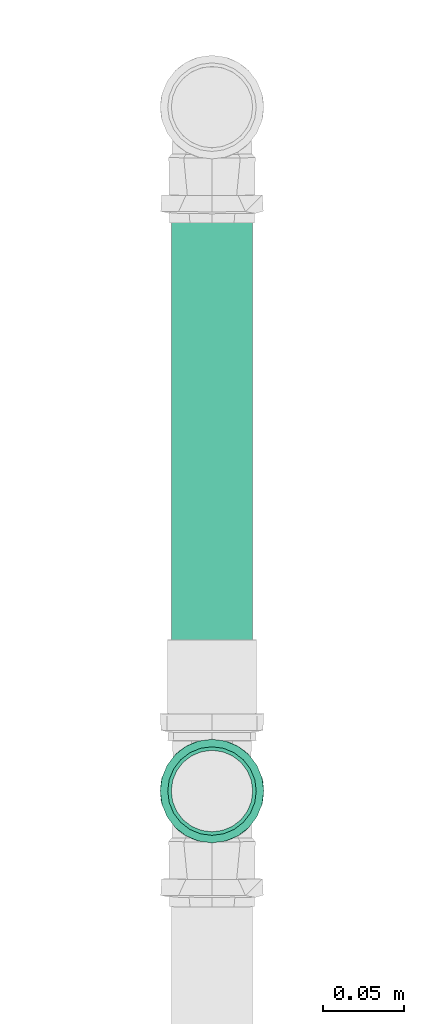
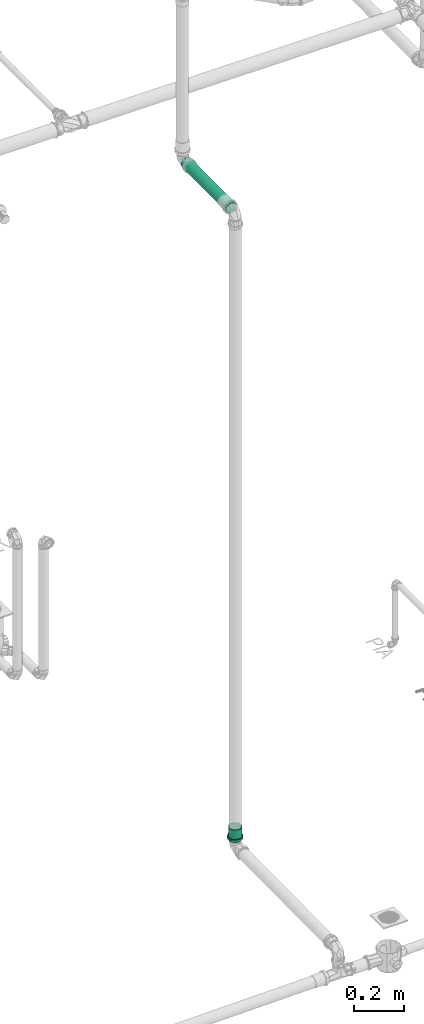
# One storey, part 247 of 589: 1 flow fitting, 1 flow segment.
"""IFC2X3 building model written with IfcOpenShell, lengths in millimetres."""

from ifc_helpers import new_model, entity, si_unit, converted_unit, derived_unit, direction, frame, origin, origin_2d_with_axis, place, context, subcontext, project, spatial, circle, extrude, faceted_brep, source, transform, mapped, material, type_object, type_shapes, element, save


model = new_model("IFC2X3")

# Units and contexts
model_context = context("Model", 3, precision=0.01, world=origin(), true_north=direction((6.123031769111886e-17, 1.0)))
body_context = subcontext(model_context, "Body", "Model", "MODEL_VIEW")
ifc_project = project(units=[si_unit("LENGTHUNIT", "METRE", prefix="MILLI"), si_unit("AREAUNIT", "SQUARE_METRE"), si_unit("VOLUMEUNIT", "CUBIC_METRE"), converted_unit("PLANEANGLEUNIT", "DEGREE", entity("IfcRatioMeasure", 0.017453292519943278), si_unit("PLANEANGLEUNIT", "RADIAN"), dimensions=[0, 0, 0, 0, 0, 0, 0]), si_unit("MASSUNIT", "GRAM", prefix="KILO"), derived_unit("MASSDENSITYUNIT", [(si_unit("MASSUNIT", "GRAM", prefix="KILO"), 1), (si_unit("LENGTHUNIT", "METRE"), -3)]), derived_unit("IONCONCENTRATIONUNIT", [(si_unit("MASSUNIT", "GRAM", prefix="KILO"), 1), (si_unit("LENGTHUNIT", "METRE"), -3)]), derived_unit("MOMENTOFINERTIAUNIT", [(si_unit("LENGTHUNIT", "METRE"), 4)]), si_unit("TIMEUNIT", "SECOND"), si_unit("FREQUENCYUNIT", "HERTZ"), si_unit("THERMODYNAMICTEMPERATUREUNIT", "DEGREE_CELSIUS"), derived_unit("THERMALTRANSMITTANCEUNIT", [(si_unit("MASSUNIT", "GRAM", prefix="KILO"), 1), (si_unit("THERMODYNAMICTEMPERATUREUNIT", "KELVIN"), -1), (si_unit("TIMEUNIT", "SECOND"), -3)]), derived_unit("THERMALCONDUCTANCEUNIT", [(si_unit("MASSUNIT", "GRAM", prefix="KILO"), 1), (si_unit("THERMODYNAMICTEMPERATUREUNIT", "KELVIN"), -1), (si_unit("TIMEUNIT", "SECOND"), -3), (si_unit("LENGTHUNIT", "METRE"), 1)]), derived_unit("VOLUMETRICFLOWRATEUNIT", [(si_unit("LENGTHUNIT", "METRE"), 3), (si_unit("TIMEUNIT", "SECOND"), -1)]), derived_unit("MASSFLOWRATEUNIT", [(si_unit("MASSUNIT", "GRAM", prefix="KILO"), 1), (si_unit("TIMEUNIT", "SECOND"), -1)]), derived_unit("ROTATIONALFREQUENCYUNIT", [(si_unit("TIMEUNIT", "SECOND"), -1)]), si_unit("ELECTRICCURRENTUNIT", "AMPERE"), si_unit("ELECTRICVOLTAGEUNIT", "VOLT"), si_unit("POWERUNIT", "WATT"), si_unit("FORCEUNIT", "NEWTON", prefix="KILO"), si_unit("ILLUMINANCEUNIT", "LUX"), si_unit("LUMINOUSFLUXUNIT", "LUMEN"), si_unit("LUMINOUSINTENSITYUNIT", "CANDELA"), derived_unit("USERDEFINED", [(si_unit("MASSUNIT", "GRAM", prefix="KILO"), -1), (si_unit("LENGTHUNIT", "METRE"), -2), (si_unit("TIMEUNIT", "SECOND"), 3), (si_unit("LUMINOUSFLUXUNIT", "LUMEN"), 1)]), derived_unit("USERDEFINED", [(si_unit("MASSUNIT", "GRAM", prefix="KILO"), 1), (si_unit("TIMEUNIT", "SECOND"), -3), (si_unit("LENGTHUNIT", "METRE"), 3), (si_unit("ELECTRICCURRENTUNIT", "AMPERE"), -2)]), derived_unit("SOUNDPOWERUNIT", [(si_unit("MASSUNIT", "GRAM", prefix="KILO"), 1), (si_unit("TIMEUNIT", "SECOND"), -3), (si_unit("LENGTHUNIT", "METRE"), 2)]), derived_unit("SOUNDPRESSUREUNIT", [(si_unit("MASSUNIT", "GRAM", prefix="KILO"), 1), (si_unit("LENGTHUNIT", "METRE"), -1), (si_unit("TIMEUNIT", "SECOND"), -2)]), derived_unit("LINEARVELOCITYUNIT", [(si_unit("LENGTHUNIT", "METRE"), 1), (si_unit("TIMEUNIT", "SECOND"), -1)]), si_unit("PRESSUREUNIT", "PASCAL"), derived_unit("USERDEFINED", [(si_unit("MASSUNIT", "GRAM", prefix="KILO"), 1), (si_unit("LENGTHUNIT", "METRE"), -2), (si_unit("TIMEUNIT", "SECOND"), -2)]), derived_unit("LINEARFORCEUNIT", [(si_unit("MASSUNIT", "GRAM", prefix="KILO"), 1), (si_unit("TIMEUNIT", "SECOND"), -2)]), derived_unit("PLANARFORCEUNIT", [(si_unit("MASSUNIT", "GRAM", prefix="KILO"), 1), (si_unit("LENGTHUNIT", "METRE"), -1), (si_unit("TIMEUNIT", "SECOND"), -2)]), derived_unit("SPECIFICHEATCAPACITYUNIT", [(si_unit("THERMODYNAMICTEMPERATUREUNIT", "KELVIN"), -1), (si_unit("LENGTHUNIT", "METRE"), 2), (si_unit("TIMEUNIT", "SECOND"), -2)]), derived_unit("HEATINGVALUEUNIT", [(si_unit("LENGTHUNIT", "METRE"), 2), (si_unit("TIMEUNIT", "SECOND"), -2)]), derived_unit("VAPORPERMEABILITYUNIT", [(si_unit("LENGTHUNIT", "METRE"), -1), (si_unit("TIMEUNIT", "SECOND"), 1)]), derived_unit("DYNAMICVISCOSITYUNIT", [(si_unit("MASSUNIT", "GRAM", prefix="KILO"), 1), (si_unit("TIMEUNIT", "SECOND"), -1), (si_unit("LENGTHUNIT", "METRE"), -1)]), derived_unit("THERMALEXPANSIONCOEFFICIENTUNIT", [(si_unit("THERMODYNAMICTEMPERATUREUNIT", "KELVIN"), -1)]), derived_unit("MODULUSOFELASTICITYUNIT", [(si_unit("MASSUNIT", "GRAM", prefix="KILO"), 1), (si_unit("LENGTHUNIT", "METRE"), -1), (si_unit("TIMEUNIT", "SECOND"), -2)]), derived_unit("ISOTHERMALMOISTURECAPACITYUNIT", [(si_unit("LENGTHUNIT", "METRE"), 3), (si_unit("MASSUNIT", "GRAM", prefix="KILO"), -1)]), derived_unit("MOISTUREDIFFUSIVITYUNIT", [(si_unit("TIMEUNIT", "SECOND"), -1), (si_unit("LENGTHUNIT", "METRE"), 2)])], contexts=[model_context])

# Site, building, storey
site_placement = place(None, origin())
site = spatial("IfcSite", under=ifc_project, at=site_placement, Name="Default", CompositionType="ELEMENT")
building_placement = place(site_placement, origin())
building = spatial("IfcBuilding", under=site, at=building_placement, CompositionType="ELEMENT")
storey_placement = place(building_placement, frame((0.0, 0.0, 100.0)))
storey = spatial("IfcBuildingStorey", under=building, at=storey_placement, Name="TÉRREO", CompositionType="ELEMENT", Elevation=100.0)

# Flow segment
pipe_segment_type = type_object("IfcPipeSegmentType", Name="Tipos de tubos:PVC Esgoto Série Normal", PredefinedType="NOTDEFINED")
flow_segment_placement = place(storey_placement, origin())
element("IfcFlowSegment", 1, at=flow_segment_placement, inside=storey, type_object=pipe_segment_type, Name="Tipos de tubos:PVC Esgoto Série Normal", ObjectType="Tipos de tubos:PVC Esgoto Série Normal", context=body_context, shape_type="SweptSolid", body=[
    extrude(circle(Radius=25.0, at=origin_2d_with_axis()), frame((2699.4844981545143, 1548.6687605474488, 3013.5093975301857), z_axis=(0.0, 0.9999500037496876, 0.009999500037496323), x_axis=(1.0, 0.0, 0.0)), (0.0, 0.0, 1.0), 358.13839954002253),
])

# Flow fitting
ifc_material = material(Name="PVC Série Normal")
pipe_fitting_type = type_object("IfcPipeFittingType", Name="PVC Esgoto_Luva Simples para Conexão_Rodrigo MEP:Standard", PredefinedType="NOTDEFINED", material=ifc_material)
shared_shape = source(origin(), body_context, "Body", "Brep", [
    faceted_brep([(16.599999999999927, 15.900000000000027, -27.53960784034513), (16.599999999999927, 22.485995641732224, -22.485995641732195), (16.599999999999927, 13.599999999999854, -23.555890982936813), (16.599999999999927, 7.039878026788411, -26.273182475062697), (16.599999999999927, 8.2304456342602, -30.71644127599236), (16.599999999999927, 19.233304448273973, -19.233304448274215), (16.599999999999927, 27.539607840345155, -15.899999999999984), (16.599999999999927, 23.55589098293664, -13.600000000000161), (16.599999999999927, 26.273182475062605, -7.03987802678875), (16.599999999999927, 30.716441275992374, -8.230445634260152), (16.599999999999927, 27.2, 0.0), (16.599999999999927, 31.8, 0.0), (16.599999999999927, 26.273182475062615, 7.0398780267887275), (16.599999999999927, 30.71644127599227, 8.23044563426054), (16.599999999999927, 23.555890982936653, 13.60000000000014), (16.599999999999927, 27.539607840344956, 15.900000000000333), (16.599999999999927, 19.233304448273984, 19.2333044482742), (16.599999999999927, 22.485995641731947, 22.48599564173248), (16.599999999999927, 13.599999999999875, 23.555890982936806), (16.599999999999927, 15.899999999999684, 27.53960784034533), (16.599999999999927, 7.039878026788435, 26.27318247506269), (16.599999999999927, 8.230445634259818, 30.716441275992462), (16.599999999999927, 0.0, 27.2), (16.599999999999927, 0.0, 31.8), (16.599999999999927, -7.039878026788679, 26.273182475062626), (16.599999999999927, -8.230445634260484, 30.716441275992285), (16.599999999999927, -13.600000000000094, 23.555890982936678), (16.599999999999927, -15.900000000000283, 27.53960784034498), (16.599999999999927, -19.23330444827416, 19.233304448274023), (16.599999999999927, -22.485995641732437, 22.48599564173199), (16.599999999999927, -23.55589098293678, 13.59999999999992), (16.599999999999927, -27.539607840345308, 15.899999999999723), (16.599999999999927, -30.71644127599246, 8.230445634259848), (16.599999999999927, -26.273182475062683, 7.039878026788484), (16.599999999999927, -31.8, 0.0), (16.599999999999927, -27.2, 0.0), (16.599999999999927, -30.71644127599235, -8.23044563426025), (16.599999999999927, -26.273182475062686, -7.03987802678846), (16.599999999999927, -27.53960784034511, -15.90000000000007), (16.599999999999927, -23.55589098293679, -13.599999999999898), (16.599999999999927, -22.485995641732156, -22.485995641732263), (16.599999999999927, -19.233304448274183, -19.233304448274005), (16.599999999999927, -15.899999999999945, -27.53960784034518), (16.599999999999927, -13.600000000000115, -23.555890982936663), (16.599999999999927, -8.230445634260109, -30.716441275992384), (16.599999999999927, -7.039878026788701, -26.273182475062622), (16.599999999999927, 0.0, -31.8), (16.599999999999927, 0.0, -27.2), (6.500000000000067, -10.708108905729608, 29.429219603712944), (6.500000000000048, -24.359073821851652, 20.44200387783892), (6.500000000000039, -27.120498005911, 15.6595386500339), (6.50000000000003, -29.881922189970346, 10.877073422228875), (6.500000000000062, -15.89769721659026, 27.540937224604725), (6.500000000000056, -20.128385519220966, 23.991470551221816), (6.50000000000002, -30.840961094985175, 5.438536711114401), (6.5000000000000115, -31.8, 0.0), (6.50000000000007, -5.518520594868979, 31.317501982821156), (6.500000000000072, 5.526376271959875, 31.316116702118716), (6.50000000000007, 0.00392783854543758, 31.316809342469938), (6.500000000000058, 20.134403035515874, 23.986420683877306), (6.500000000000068, 10.715490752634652, 29.42653259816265), (6.500000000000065, 15.904605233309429, 27.536948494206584), (6.500000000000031, 29.8846497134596, 10.869577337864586), (6.500000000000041, 27.12442527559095, 15.652735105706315), (6.5000000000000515, 24.364200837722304, 20.435892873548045), (6.5000000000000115, 31.8, 0.0), (6.499999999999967, 24.364200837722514, -20.435892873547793), (6.499999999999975, 27.12442527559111, -15.652735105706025), (6.499999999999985, 29.884649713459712, -10.869577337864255), (6.4999999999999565, 15.904605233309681, -27.53694849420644), (6.499999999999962, 20.134403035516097, -23.986420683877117), (6.499999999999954, 10.715490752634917, -29.42653259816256), (6.499999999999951, 5.526376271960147, -31.31611670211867), (6.499999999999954, -5.518520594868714, -31.317501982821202), (6.499999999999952, 0.003927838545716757, -31.316809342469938), (6.499999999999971, -20.128385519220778, -23.99147055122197), (6.499999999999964, -15.897697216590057, -27.54093722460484), (6.499999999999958, -10.70810890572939, -29.42921960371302), (6.499999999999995, -29.881922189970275, -10.877073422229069), (6.499999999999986, -27.12049800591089, -15.659538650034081), (6.499999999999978, -24.359073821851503, -20.442003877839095), (6.500000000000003, -30.840961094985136, -5.438536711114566), (6.499999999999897, -30.696173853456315, -6.259599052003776), (62.0, 13.600000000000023, -23.55589098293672), (62.0, 19.233304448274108, -19.23330444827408), (62.0, 12.499999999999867, -21.650635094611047), (62.0, 6.470476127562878, -24.14814565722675), (62.0, 7.039878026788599, -26.273182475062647), (62.0, 17.677669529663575, -17.677669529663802), (62.0, 23.55589098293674, -13.599999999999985), (62.0, 21.65063509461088, -12.50000000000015), (62.0, 24.148145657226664, -6.470476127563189), (62.0, 26.27318247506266, -7.039878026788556), (62.0, 25.0, 0.0), (62.0, 27.2, 0.0), (62.0, 24.148145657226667, 6.4704761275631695), (62.0, 26.273182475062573, 7.03987802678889), (62.0, 21.650635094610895, 12.500000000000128), (62.0, 23.555890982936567, 13.600000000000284), (62.0, 17.67766952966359, 17.67766952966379), (62.0, 19.233304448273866, 19.233304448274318), (62.0, 12.499999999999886, 21.650635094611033), (62.0, 13.59999999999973, 23.55589098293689), (62.0, 6.4704761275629, 24.14814565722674), (62.0, 7.039878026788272, 26.273182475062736), (62.0, 0.0, 25.0), (62.0, 0.0, 27.2), (62.0, -6.470476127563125, 24.148145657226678), (62.0, -7.039878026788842, 26.273182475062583), (62.0, -12.500000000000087, 21.650635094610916), (62.0, -13.600000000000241, 23.555890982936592), (62.0, -17.677669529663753, 17.677669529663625), (62.0, -19.233304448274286, 19.2333044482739), (62.0, -21.65063509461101, 12.499999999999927), (62.0, -23.555890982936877, 13.599999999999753), (62.0, -26.27318247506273, 7.039878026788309), (62.0, -24.14814565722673, 6.470476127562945), (62.0, -27.2, 0.0), (62.0, -25.0, 0.0), (62.0, -26.27318247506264, -7.0398780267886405), (62.0, -24.148145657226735, -6.470476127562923), (62.0, -23.5558909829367, -13.600000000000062), (62.0, -21.650635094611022, -12.499999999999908), (62.0, -19.233304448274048, -19.233304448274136), (62.0, -17.67766952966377, -17.677669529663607), (62.0, -13.599999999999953, -23.555890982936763), (62.0, -12.500000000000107, -21.650635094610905), (62.0, -7.039878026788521, -26.27318247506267), (62.0, -6.470476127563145, -24.148145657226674), (62.0, 0.0, -27.2), (62.0, 0.0, -25.0), (0.0, 12.499999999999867, -21.650635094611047), (0.0, 19.233304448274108, -19.23330444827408), (0.0, 13.600000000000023, -23.55589098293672), (0.0, 6.470476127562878, -24.14814565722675), (0.0, 17.677669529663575, -17.677669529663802), (0.0, 23.55589098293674, -13.599999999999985), (0.0, 21.65063509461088, -12.50000000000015), (0.0, 24.148145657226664, -6.470476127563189), (0.0, 26.27318247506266, -7.039878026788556), (0.0, 25.0, 0.0), (0.0, 27.2, 0.0), (0.0, 24.148145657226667, 6.4704761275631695), (0.0, 26.273182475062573, 7.03987802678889), (0.0, 21.650635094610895, 12.500000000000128), (0.0, 23.555890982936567, 13.600000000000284), (0.0, 17.67766952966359, 17.67766952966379), (0.0, 19.233304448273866, 19.233304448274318), (0.0, 12.499999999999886, 21.650635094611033), (0.0, 13.59999999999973, 23.55589098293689), (0.0, 6.4704761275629, 24.14814565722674), (0.0, 7.039878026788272, 26.273182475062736), (0.0, 0.0, 25.0), (0.0, 0.0, 27.2), (0.0, -6.470476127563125, 24.148145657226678), (0.0, -7.039878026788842, 26.273182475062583), (0.0, -12.500000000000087, 21.650635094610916), (0.0, -13.600000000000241, 23.555890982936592), (0.0, -17.677669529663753, 17.677669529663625), (0.0, -19.233304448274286, 19.2333044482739), (0.0, -21.65063509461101, 12.499999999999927), (0.0, -23.555890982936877, 13.599999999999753), (0.0, -26.27318247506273, 7.039878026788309), (0.0, -24.14814565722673, 6.470476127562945), (0.0, -27.2, 0.0), (0.0, -25.0, 0.0), (0.0, -26.27318247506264, -7.0398780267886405), (0.0, -24.148145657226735, -6.470476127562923), (0.0, -23.5558909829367, -13.600000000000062), (0.0, -21.650635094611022, -12.499999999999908), (0.0, -19.233304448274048, -19.233304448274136), (0.0, -17.67766952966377, -17.677669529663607), (0.0, -13.599999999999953, -23.555890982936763), (0.0, -12.500000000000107, -21.650635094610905), (0.0, -7.039878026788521, -26.27318247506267), (0.0, -6.470476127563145, -24.148145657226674), (0.0, 0.0, -27.2), (0.0, 0.0, -25.0), (0.0, 7.039878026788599, -26.273182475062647), (5.300000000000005, -26.37968999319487, 4.651830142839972), (5.299999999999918, -26.25584678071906, 5.354122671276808), (5.300000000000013, -25.559379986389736, 9.303660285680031), (5.300000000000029, -20.835434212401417, 17.48498444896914), (5.300000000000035, -17.216732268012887, 20.521006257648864), (5.300000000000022, -23.19740709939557, 13.394322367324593), (5.3000000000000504, -4.720244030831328, 26.787297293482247), (5.300000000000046, -9.15913717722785, 25.172162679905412), (5.299999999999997, -27.2, 0.0), (5.300000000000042, -13.598030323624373, 23.557028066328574), (5.300000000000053, 9.165451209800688, 25.169864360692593), (5.300000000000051, 13.603939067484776, 23.55361632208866), (5.300000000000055, 4.7269633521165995, 26.786112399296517), (5.300000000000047, 17.221879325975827, 20.516686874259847), (5.300000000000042, 20.839819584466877, 17.479757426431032), (5.3000000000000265, 25.56171296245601, 9.297248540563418), (5.299999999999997, 27.2, 0.0), (5.3000000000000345, 23.20076627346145, 13.388502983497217), (5.300000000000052, 0.003359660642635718, 26.786704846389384), (5.299999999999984, 25.56171296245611, -9.29724854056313), (5.299999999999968, 20.839819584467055, -17.47975742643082), (5.2999999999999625, 17.22187932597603, -20.516686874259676), (5.299999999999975, 23.200766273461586, -13.388502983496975), (5.299999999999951, 4.726963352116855, -26.78611239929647), (5.2999999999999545, 9.165451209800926, -25.169864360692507), (5.299999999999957, 13.603939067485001, -23.553616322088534), (5.29999999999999, -26.379689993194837, -4.651830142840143), (5.299999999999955, -9.159137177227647, -25.17216267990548), (5.299999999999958, -13.5980303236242, -23.55702806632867), (5.299999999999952, -4.720244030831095, -26.787297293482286), (5.299999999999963, -17.216732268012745, -20.52100625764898), (5.299999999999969, -20.83543421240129, -17.484984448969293), (5.299999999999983, -25.559379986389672, -9.303660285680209), (5.299999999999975, -23.197407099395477, -13.394322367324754), (5.299999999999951, 0.003359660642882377, -26.78670484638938), (39.0, -25.0, 0.0), (39.0, 25.0, 0.0)], [[[0, 1, 2]], [[0, 2, 3]], [[3, 4, 0]], [[2, 1, 5]], [[6, 5, 1]], [[7, 5, 6]], [[8, 7, 6]], [[8, 6, 9]], [[8, 9, 10]], [[10, 9, 11]], [[12, 10, 11]], [[12, 11, 13]], [[14, 12, 13]], [[14, 13, 15]], [[16, 14, 15]], [[15, 17, 16]], [[17, 18, 16]], [[17, 19, 18]], [[18, 19, 20]], [[21, 20, 19]], [[20, 21, 22]], [[22, 21, 23]], [[22, 23, 24]], [[24, 23, 25]], [[24, 25, 26]], [[27, 26, 25]], [[27, 28, 26]], [[28, 27, 29]], [[30, 28, 29]], [[31, 30, 29]], [[32, 30, 31]], [[33, 30, 32]], [[33, 32, 34]], [[35, 33, 34]], [[36, 35, 34]], [[36, 37, 35]], [[37, 36, 38]], [[39, 37, 38]], [[39, 38, 40]], [[39, 40, 41]], [[40, 42, 41]], [[41, 42, 43]], [[43, 42, 44]], [[44, 45, 43]], [[46, 45, 44]], [[4, 47, 46]], [[46, 47, 45]], [[4, 3, 47]], [[48, 27, 25]], [[31, 29, 49]], [[31, 49, 50, 51]], [[52, 53, 27]], [[32, 51, 54]], [[54, 55, 34]], [[54, 34, 32]], [[25, 56, 48]], [[49, 29, 53]], [[23, 57, 58, 56]], [[59, 19, 17]], [[27, 53, 29]], [[48, 52, 27]], [[31, 51, 32]], [[57, 23, 21]], [[60, 19, 61]], [[15, 62, 63, 64]], [[19, 60, 21]], [[15, 13, 62]], [[17, 64, 59]], [[57, 21, 60]], [[23, 56, 25]], [[15, 64, 17]], [[13, 65, 62]], [[13, 11, 65]], [[59, 61, 19]], [[65, 11, 9]], [[6, 1, 66]], [[6, 66, 67, 68]], [[69, 70, 0]], [[68, 65, 9]], [[71, 69, 0]], [[71, 0, 4]], [[4, 72, 71]], [[66, 1, 70]], [[46, 73, 74, 72]], [[75, 76, 42]], [[0, 70, 1]], [[75, 42, 40]], [[6, 68, 9]], [[73, 46, 44]], [[77, 42, 76]], [[38, 78, 79, 80]], [[42, 77, 44]], [[38, 36, 78]], [[40, 80, 75]], [[73, 44, 77]], [[46, 72, 4]], [[38, 80, 40]], [[36, 81, 82, 78]], [[55, 81, 34]], [[34, 81, 36]], [[83, 84, 85]], [[83, 85, 86]], [[86, 87, 83]], [[85, 84, 88]], [[89, 88, 84]], [[88, 89, 90]], [[90, 89, 91]], [[92, 91, 89]], [[92, 93, 91]], [[93, 92, 94]], [[95, 93, 94]], [[94, 96, 95]], [[95, 96, 97]], [[98, 97, 96]], [[97, 98, 99]], [[99, 98, 100]], [[101, 99, 100]], [[100, 102, 101]], [[101, 102, 103]], [[104, 103, 102]], [[103, 104, 105]], [[105, 104, 106]], [[105, 106, 107]], [[107, 106, 108]], [[107, 108, 109]], [[110, 109, 108]], [[110, 111, 109]], [[111, 110, 112]], [[112, 113, 111]], [[114, 113, 112]], [[113, 114, 115]], [[115, 116, 113]], [[117, 116, 115]], [[117, 118, 116]], [[119, 118, 117]], [[119, 120, 118]], [[120, 119, 121]], [[121, 122, 120]], [[122, 121, 123]], [[122, 123, 124]], [[123, 125, 124]], [[124, 125, 126]], [[126, 125, 127]], [[127, 128, 126]], [[129, 128, 127]], [[87, 130, 129]], [[129, 130, 128]], [[87, 86, 130]], [[131, 132, 133]], [[134, 131, 133]], [[135, 132, 131]], [[132, 135, 136]], [[137, 136, 135]], [[138, 136, 137]], [[136, 138, 139]], [[138, 140, 139]], [[141, 139, 140]], [[141, 140, 142]], [[142, 143, 141]], [[144, 143, 142]], [[143, 144, 145]], [[146, 145, 144]], [[147, 145, 146]], [[147, 146, 148]], [[148, 149, 147]], [[150, 149, 148]], [[149, 150, 151]], [[152, 151, 150]], [[153, 151, 152]], [[154, 153, 152]], [[155, 153, 154]], [[156, 155, 154]], [[155, 156, 157]], [[156, 158, 157]], [[159, 157, 158]], [[158, 160, 159]], [[159, 160, 161]], [[162, 161, 160]], [[160, 163, 162]], [[162, 163, 164]], [[163, 165, 164]], [[164, 165, 166]], [[165, 167, 166]], [[168, 166, 167]], [[167, 169, 168]], [[170, 168, 169]], [[171, 170, 169]], [[171, 172, 170]], [[173, 172, 171]], [[174, 172, 173]], [[173, 175, 174]], [[174, 175, 176]], [[175, 177, 176]], [[177, 134, 178]], [[176, 177, 178]], [[133, 178, 134]], [[162, 179, 180, 181]], [[159, 182, 183]], [[182, 161, 181, 184]], [[185, 155, 186]], [[161, 162, 181]], [[187, 179, 164]], [[183, 188, 157]], [[183, 157, 159]], [[161, 182, 159]], [[189, 190, 149]], [[189, 149, 151]], [[157, 188, 186]], [[157, 186, 155]], [[153, 155, 185]], [[164, 179, 162]], [[151, 191, 189]], [[147, 192, 193]], [[143, 194, 195]], [[194, 145, 193, 196]], [[143, 195, 141]], [[10, 12, 96, 94]], [[149, 192, 147]], [[153, 185, 197, 191]], [[153, 191, 151]], [[145, 147, 193]], [[190, 192, 149]], [[145, 194, 143]], [[139, 195, 198]], [[132, 199, 200]], [[199, 136, 198, 201]], [[202, 178, 203]], [[136, 139, 198]], [[139, 141, 195]], [[92, 8, 10, 94]], [[133, 203, 178]], [[200, 204, 133]], [[136, 199, 132]], [[205, 164, 166]], [[206, 207, 172]], [[133, 204, 203]], [[206, 172, 174]], [[176, 178, 202]], [[200, 133, 132]], [[174, 208, 206]], [[170, 209, 210]], [[166, 211, 205]], [[211, 168, 210, 212]], [[168, 211, 166]], [[172, 209, 170]], [[176, 202, 213, 208]], [[176, 208, 174]], [[168, 170, 210]], [[207, 209, 172]], [[205, 187, 164]], [[116, 118, 214, 165, 163]], [[156, 109, 111, 158]], [[111, 113, 160, 158]], [[113, 116, 163, 160]], [[107, 109, 156, 154]], [[154, 152, 105, 107]], [[103, 105, 152, 150]], [[103, 150, 148, 101]], [[142, 95, 97, 144]], [[97, 99, 146, 144]], [[99, 101, 148, 146]], [[93, 95, 142, 140, 215]], [[215, 140, 138, 91, 93]], [[135, 131, 85, 88]], [[90, 91, 138, 137]], [[90, 137, 135, 88]], [[86, 85, 131, 134]], [[134, 177, 130, 86]], [[128, 130, 177, 175]], [[128, 175, 173, 126]], [[167, 120, 122, 169]], [[122, 124, 171, 169]], [[124, 126, 173, 171]], [[118, 120, 167, 165, 214]], [[211, 78, 82, 81, 55, 187, 205]], [[79, 78, 211, 212, 210, 80]], [[75, 80, 210, 209, 207, 76]], [[207, 206, 208, 73, 77, 76]], [[213, 202, 72, 74, 73, 208]], [[203, 204, 69, 71, 72, 202]], [[198, 195, 65, 68]], [[199, 201, 198, 68, 67, 66]], [[204, 200, 199, 66, 70, 69]], [[195, 194, 62, 65]], [[197, 185, 56, 58, 57, 191]], [[63, 62, 194, 196, 193, 64]], [[57, 60, 61, 190, 189, 191]], [[193, 192, 190, 61, 59, 64]], [[48, 56, 185, 186, 188, 52]], [[187, 55, 54, 51, 181, 180, 179]], [[182, 184, 181, 51, 50, 49]], [[188, 183, 182, 49, 53, 52]], [[30, 33, 115, 114]], [[117, 115, 33, 35]], [[26, 28, 112, 110]], [[114, 112, 28, 30]], [[24, 26, 110, 108]], [[108, 106, 22, 24]], [[18, 20, 104, 102]], [[100, 16, 18, 102]], [[12, 14, 98, 96]], [[100, 98, 14, 16]], [[104, 20, 22, 106]], [[89, 7, 8, 92]], [[83, 87, 3, 2]], [[7, 89, 84, 5]], [[83, 2, 5, 84]], [[87, 129, 47, 3]], [[43, 45, 127, 125]], [[123, 41, 43, 125]], [[37, 39, 121, 119]], [[123, 121, 39, 41]], [[35, 37, 119, 117]], [[127, 45, 47, 129]]]),
])
type_shapes(pipe_fitting_type, [shared_shape])
flow_fitting_placement = place(storey_placement, frame((2699.4844981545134, 1517.729007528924, -35.858700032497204), z_axis=(1.0, 0.0, 0.0), x_axis=(0.0, 0.0, 1.0)))
element("IfcFlowFitting", 2, at=flow_fitting_placement, inside=storey, type_object=pipe_fitting_type, material=ifc_material, Name="PVC Esgoto_Luva Simples para Conexão_Rodrigo MEP:Standard", ObjectType="PVC Esgoto_Luva Simples para Conexão_Rodrigo MEP:Standard", context=body_context, shape_type="MappedRepresentation", body=[
    mapped(shared_shape, transform((0.0, 0.0, 0.0), scale=1.0)),
])

save(model, "model.ifc")
